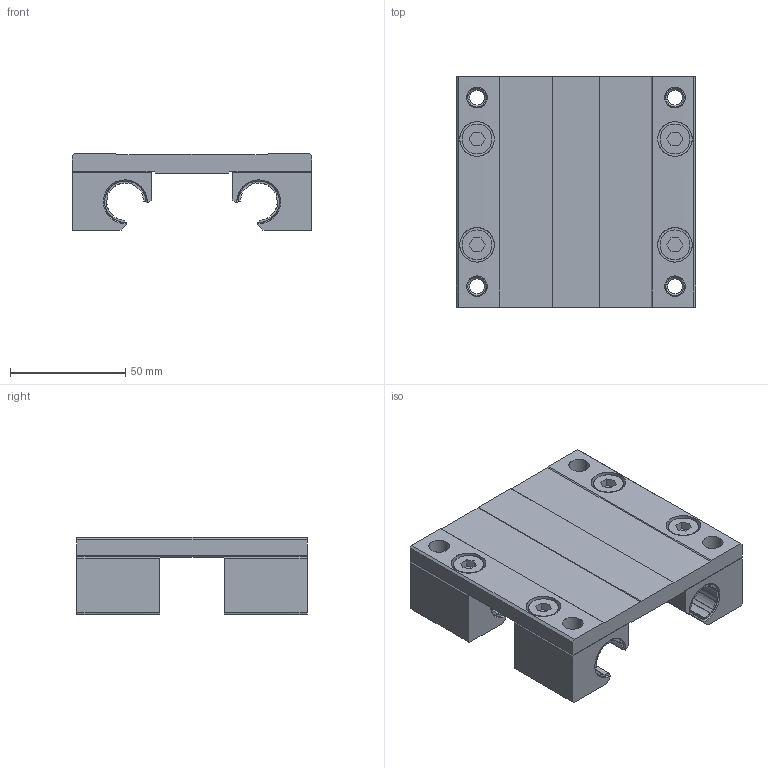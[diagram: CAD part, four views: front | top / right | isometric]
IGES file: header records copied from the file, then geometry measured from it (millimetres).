
Start section: ACIS data in IGES format
Global section: file name: Unknown; native system: ACIS; preprocessor: *IGES writer V5.2; author: unknown author; organization: unknown organization; date: 20100223.184137; units: millimetre
Bounding box: 104 x 100 x 33.5 mm (x, y, z)
Surface area: 72009.5 mm2 (no closed solid volume)
Topology: 0 solids, 0 shells, 1178 faces, 7128 edges, 7128 vertices
Faces by surface type: bspline 1178
